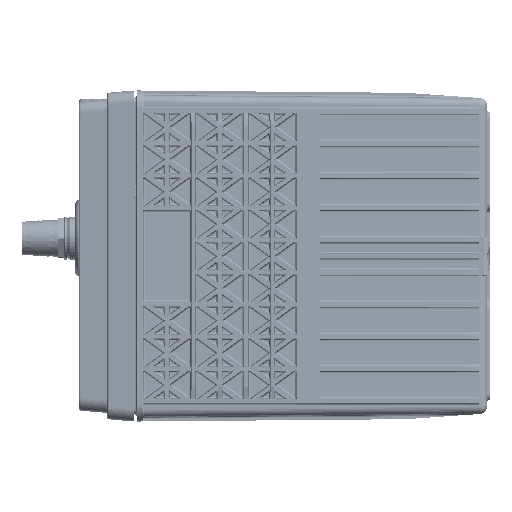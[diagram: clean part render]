
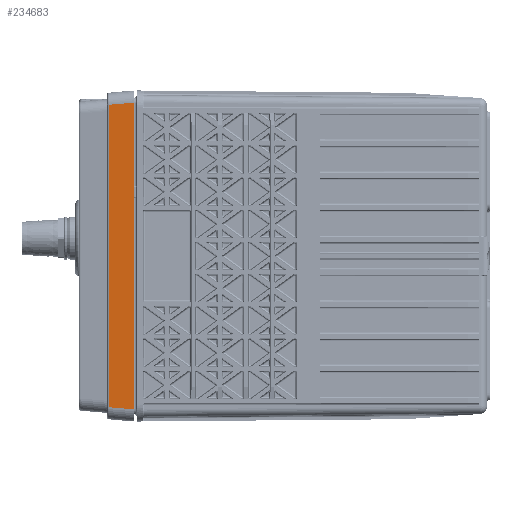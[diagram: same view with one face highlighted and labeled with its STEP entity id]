
A CAD part, left-side view. The second image highlights one B-rep face of the part: STEP entity #234683.
In plain terms, the highlighted planar face has unit normal (-0.996, 0.087, 0).
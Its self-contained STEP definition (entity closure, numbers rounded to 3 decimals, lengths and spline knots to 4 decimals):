
#5840 = EDGE_CURVE ( 'NONE', #363030, #247046, #145522, .T. ) ;
#15551 = CARTESIAN_POINT ( 'NONE',  ( -6.4269, 7.8265, 3.0978 ) ) ;
#19668 = DIRECTION ( 'NONE',  ( 0.087, 0.992, -0.087 ) ) ;
#38366 = VECTOR ( 'NONE', #176881, 39.3701 ) ;
#49277 = EDGE_LOOP ( 'NONE', ( #160807, #255335, #62038, #261788 ) ) ;
#52958 = FACE_OUTER_BOUND ( 'NONE', #49277, .T. ) ;
#58461 = LINE ( 'NONE', #277357, #321873 ) ;
#62038 = ORIENTED_EDGE ( 'NONE', *, *, #225472, .T. ) ;
#92410 = PLANE ( 'NONE',  #205994 ) ;
#122662 = CARTESIAN_POINT ( 'NONE',  ( -6.4282, 7.8115, -3.0991 ) ) ;
#128430 = CARTESIAN_POINT ( 'NONE',  ( -6.4282, 7.8115, 3.0991 ) ) ;
#130364 = VERTEX_POINT ( 'NONE', #122662 ) ;
#145522 = LINE ( 'NONE', #299851, #38366 ) ;
#145883 = DIRECTION ( 'NONE',  ( -0.087, -0.992, -0.087 ) ) ;
#156382 = DIRECTION ( 'NONE',  ( 0., 0., -1. ) ) ;
#160807 = ORIENTED_EDGE ( 'NONE', *, *, #223928, .T. ) ;
#176881 = DIRECTION ( 'NONE',  ( 0., 0., 1. ) ) ;
#180137 = DIRECTION ( 'NONE',  ( -0.087, -0.996, 0. ) ) ;
#202473 = VERTEX_POINT ( 'NONE', #128430 ) ;
#205994 = AXIS2_PLACEMENT_3D ( 'NONE', #369769, #277983, #180137 ) ;
#223928 = EDGE_CURVE ( 'NONE', #247046, #202473, #238575, .T. ) ;
#225472 = EDGE_CURVE ( 'NONE', #130364, #363030, #304284, .T. ) ;
#229703 = CARTESIAN_POINT ( 'NONE',  ( -6.474, 7.288, -3.1449 ) ) ;
#234683 = ADVANCED_FACE ( 'NONE', ( #52958 ), #92410, .T. ) ;
#238575 = LINE ( 'NONE', #15551, #396836 ) ;
#247046 = VERTEX_POINT ( 'NONE', #405925 ) ;
#255335 = ORIENTED_EDGE ( 'NONE', *, *, #404026, .T. ) ;
#261788 = ORIENTED_EDGE ( 'NONE', *, *, #5840, .T. ) ;
#264811 = CARTESIAN_POINT ( 'NONE',  ( -6.3764, 8.403, -3.0474 ) ) ;
#277357 = CARTESIAN_POINT ( 'NONE',  ( -6.4282, 7.8115, -3.096 ) ) ;
#277983 = DIRECTION ( 'NONE',  ( -0.996, 0.087, 0. ) ) ;
#299851 = CARTESIAN_POINT ( 'NONE',  ( -6.474, 7.288, 3.345 ) ) ;
#304284 = LINE ( 'NONE', #264811, #309249 ) ;
#309249 = VECTOR ( 'NONE', #145883, 39.3701 ) ;
#321873 = VECTOR ( 'NONE', #156382, 39.3701 ) ;
#363030 = VERTEX_POINT ( 'NONE', #229703 ) ;
#369769 = CARTESIAN_POINT ( 'NONE',  ( -6.425, 7.848, 3.345 ) ) ;
#396836 = VECTOR ( 'NONE', #19668, 39.3701 ) ;
#404026 = EDGE_CURVE ( 'NONE', #202473, #130364, #58461, .T. ) ;
#405925 = CARTESIAN_POINT ( 'NONE',  ( -6.474, 7.288, 3.1449 ) ) ;
